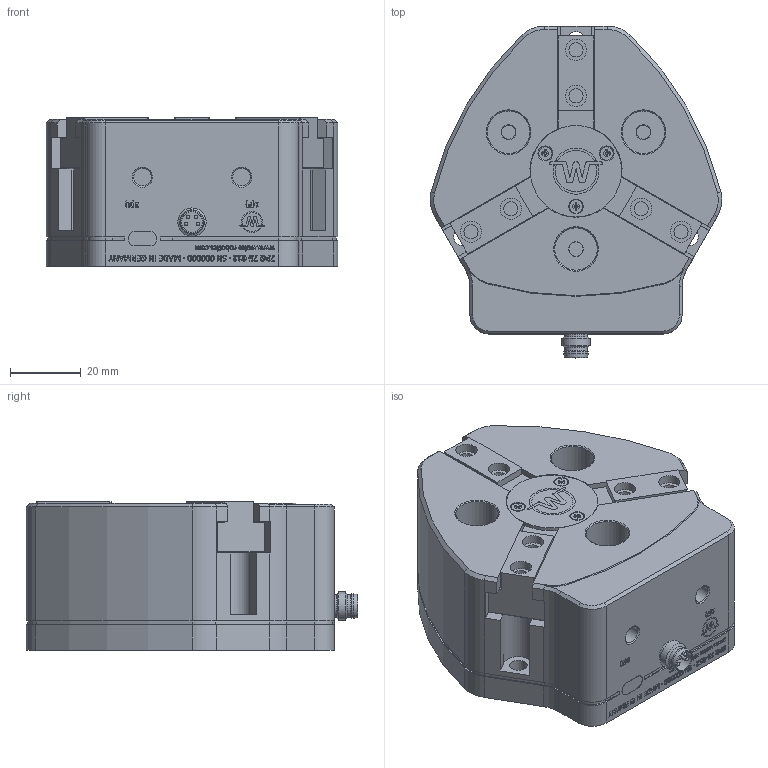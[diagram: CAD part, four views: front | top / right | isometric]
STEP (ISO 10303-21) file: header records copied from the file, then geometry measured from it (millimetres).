
FILE_DESCRIPTION((''),'2;1');
FILE_NAME('D:\ZPG\Mechanik\ZPG 75\Konturvereinfachung\ZPG75-012 customer.stp','2017-01-18T11:20:44',(''),('Weiss Robotics'),'Autodesk Inventor 2010','Autodesk Inventor 2010','');
FILE_SCHEMA(('AUTOMOTIVE_DESIGN { 1 0 10303 214 1 1 1 1 }'));
Length unit declared in the file: millimetre
Products named in the file (5): ZPG75-012 customer.iam (ohne Auswerfer); ZPG75-012 Grundkoerper; ZPG75-012 Grundbacke; ZPG75-012 Abdeckung Schraegzug; DIN EN ISO 7046-1 Z M2 x 4 - 4.8 - Z
Assembly tree (8 placements, depth 2):
  ZPG75-012 customer.iam (ohne Auswerfer)
    ZPG75-012 Grundkoerper
    ZPG75-012 Grundbacke  x3
    ZPG75-012 Abdeckung Schraegzug
    DIN EN ISO 7046-1 Z M2 x 4 - 4.8 - Z  x3
Bounding box: 82.35 x 93.75 x 42 mm (x, y, z)
Volume: 214579.8 mm3; surface area: 39366.6 mm2
Topology: 8 solids, 8 shells, 1471 faces, 3843 edges, 2509 vertices
Faces by surface type: bspline 664, plane 642, cylinder 80, cone 68, torus 13, sphere 4
Full cylindrical faces by diameter (mm): 1 x4, 1.755 x3, 2 x3, 3.8 x3, 5.8 x1, 6.5 x2, 6.9 x1, 8 x1, 25.8 x1
Entity records: 48186 total; most frequent: CARTESIAN_POINT 20253, ORIENTED_EDGE 6674, DIRECTION 3747, EDGE_CURVE 3337, VERTEX_POINT 2246, VECTOR 1859, LINE 1859, EDGE_LOOP 1495
